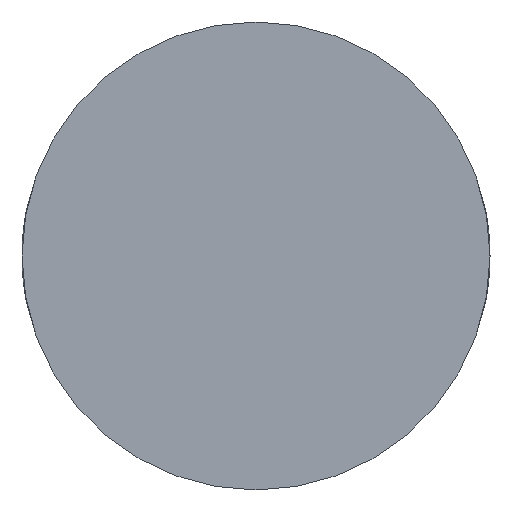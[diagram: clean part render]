
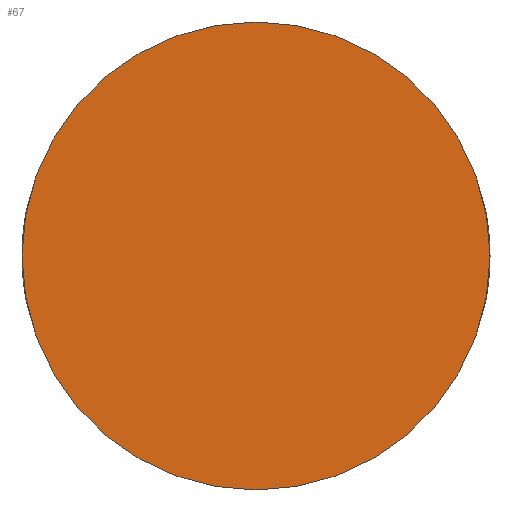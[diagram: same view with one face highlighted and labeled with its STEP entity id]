
A CAD part, left-side view. The second image highlights one B-rep face of the part: STEP entity #67.
In plain terms, the highlighted planar face has unit normal (-1, 0, 0).
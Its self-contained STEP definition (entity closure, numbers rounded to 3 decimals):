
#15=PLANE('',#75);
#18=CIRCLE('',#74,24.15);
#25=FACE_OUTER_BOUND('',#33,.T.);
#33=EDGE_LOOP('',(#61));
#44=VERTEX_POINT('',#174);
#50=EDGE_CURVE('',#44,#44,#18,.T.);
#61=ORIENTED_EDGE('',*,*,#50,.F.);
#67=ADVANCED_FACE('',(#25),#15,.T.);
#74=AXIS2_PLACEMENT_3D('',#175,#85,#86);
#75=AXIS2_PLACEMENT_3D('',#176,#87,#88);
#85=DIRECTION('center_axis',(1.,0.,0.));
#86=DIRECTION('ref_axis',(0.,1.,0.));
#87=DIRECTION('center_axis',(-1.,0.,0.));
#88=DIRECTION('ref_axis',(0.,0.,1.));
#174=CARTESIAN_POINT('',(0.,24.15,0.));
#175=CARTESIAN_POINT('Origin',(0.,0.,0.));
#176=CARTESIAN_POINT('Origin',(0.,12.075,0.));
